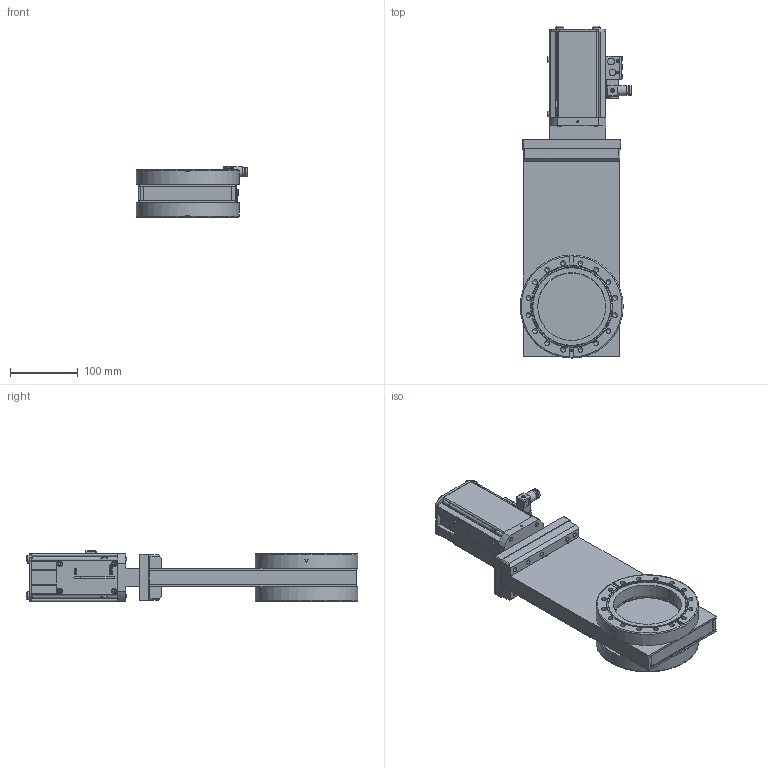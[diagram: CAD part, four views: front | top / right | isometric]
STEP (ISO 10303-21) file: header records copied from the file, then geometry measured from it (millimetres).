
FILE_DESCRIPTION(/* description */ (''),/* implementation_level */ '2;1');
FILE_NAME(/* name */ '1637126462_203.stp',/* time_stamp */ '2017-01-09T12:38:45+01:00',/* author */ (''),/* organization */ (''),/* preprocessor_version */ 'ST-DEVELOPER v15',/* originating_system */ 'SIEMENS PLM Software NX 9.0',/* authorisation */ '');
FILE_SCHEMA (('AP203_CONFIGURATION_CONTROLLED_3D_DESIGN_OF_MECHANICAL_PARTS_AND_ASSEMBLIES_MIM_LF { 1 0 10303 403 2 1 2}'));
Length unit declared in the file: millimetre
Products named in the file (34): 467882; 437235; 840726_22639ID; 840726_22652ID; 840731_22651ID; 840731_22650ID; 840738_22648ID; 840727_22646ID; 840727_22641ID; N-6024-538.1; 68057-01.1; 69128.3; 72872-01.1; N-7557-016_1.1; N-7557-018.1; N-7557-016_2.1; N-6024-524.1; N-5018-005.1; n-6099-454.1; 25834-01.2_22643ID; 25834-01.2; N-6024-571.1; 85948-01.1; 94222-01.1; 73003-01.1; 63216-01.1; 78103-r1.1; 82468-R1.2; N-7557-016_3.1_MODELNX-ARRAGMNTArrangement 1; 94800-R1.7_NX-ARRAGMNTKONFIG1; 212039.7_MODEL; 212155.4; 94235-R1.2; 710356
Assembly tree (49 placements, depth 4):
  710356
    94235-R1.2
      73003-01.1  x4
      94222-01.1
      85948-01.1
      N-6024-571.1  x4
    212155.4
      212039.7_MODEL
        840727_22641ID
        840727_22646ID
        840738_22648ID
        840731_22650ID
        840731_22651ID
        840726_22652ID
        840726_22639ID
      25834-01.2
      25834-01.2_22643ID
      n-6099-454.1  x2
    94800-R1.7_NX-ARRAGMNTKONFIG1
      N-5018-005.1  x2
      N-6024-524.1  x6
      N-7557-016_2.1
      N-7557-018.1
      N-7557-016_1.1
      N-7557-016_3.1_MODELNX-ARRAGMNTArrangement 1
        437235
        467882
    82468-R1.2
      72872-01.1
      69128.3
    63216-01.1
    78103-r1.1
      68057-01.1
      N-6024-538.1  x4
Bounding box: 164.28 x 489.67 x 74.35 mm (x, y, z)
Volume: 1563615.9 mm3; surface area: 533846.9 mm2
Topology: 121 solids, 121 shells, 1701 faces, 4068 edges, 2724 vertices
Faces by surface type: plane 1249, cylinder 278, cone 101, extrusion 26, torus 24, sphere 21, bspline 2
Full cylindrical faces by diameter (mm): 0.7 x1, 2.125 x1, 2.5 x2, 2.65 x1, 2.8 x2, 3 x12, 3.2 x2, 3.3 x4, 3.4 x4, 3.5 x3, 4 x12, 4.2 x3, 4.22 x1, 4.3 x4, 4.35 x2, 4.4 x4, 4.625 x2, 4.675 x2, 5 x7, 5.5 x1, 5.9 x1, 6 x20, 6.6 x4, 6.8 x15, 6.909 x32, 7 x1, 7.05 x1, 7.982 x4, 8 x4, 8.8 x2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
Entity records: 48126 total; most frequent: CARTESIAN_POINT 9205, DIRECTION 6048, ORIENTED_EDGE 5938, EDGE_CURVE 2969, VERTEX_POINT 2176, AXIS2_PLACEMENT_3D 2067, VECTOR 1914, LINE 1888
